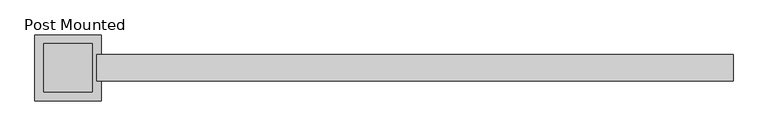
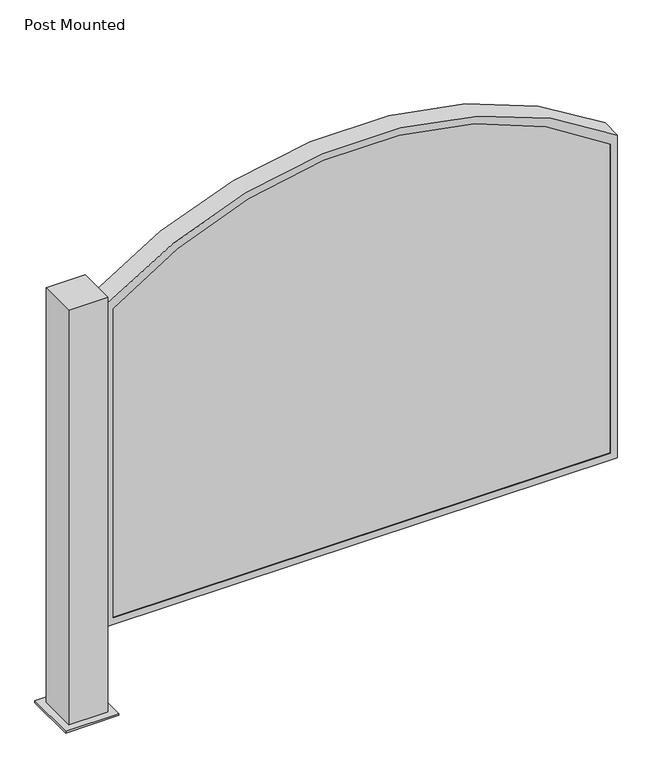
"""IFC4 building model written with IfcOpenShell, lengths in millimetres: proxy geometry."""

from ifc_helpers import new_model, si_unit, point, frame, frame_2d, origin, origin_with_axes, place, context, project, spatial, polyline, circle_curve, trimmed, segment, composite_curve, outline, extrude, source, transform, mapped, element, save


def post_mounted_1185a56c(model_context):
    return source(origin(), model_context, "Body", "SweptSolid", [
        extrude(outline(composite_curve([segment(polyline([(1498.6, -841.557955), (330.2, -841.557955), (330.2, -838.382955), (1498.1842172, -838.382955)]), True, "CONTINUOUS"), segment(trimmed(circle_curve(frame_2d((350.2311334, 47.442045)), 1449.9938666), [point((1498.1842172, -838.382955))], [point((1498.1842172, 933.267045))], True, "CARTESIAN"), True, "CONTINUOUS"), segment(polyline([(1498.1842172, 933.267045), (330.2, 933.267045), (330.2, 936.442045), (1498.6, 936.442045)]), True, "CONTINUOUS"), segment(trimmed(circle_curve(frame_2d((354.5416674, 47.442045)), 1448.8583328), [point((1498.6, 936.442045))], [point((1498.6, -841.557955))], False, "CARTESIAN"), True, "CONTINUOUS")], self_intersect=False)), frame((0.0, -31.75, 0.0), z_axis=(0.0, 1.0, 0.0), x_axis=(0.0, 0.0, 1.0)), (0.0, 0.0, 1.0), 63.5),
        extrude(outline(composite_curve([segment(polyline([(1498.6, -841.557955), (330.2, -841.557955), (330.2, 936.442045), (1498.6, 936.442045)]), True, "CONTINUOUS"), segment(trimmed(circle_curve(frame_2d((355.722222, 47.442045)), 1447.9263157), [point((1498.6, 936.442045))], [point((1498.6, -841.557955))], False, "CARTESIAN"), True, "CONTINUOUS")], self_intersect=False)), frame((0.0, 28.3669303, 0.0), z_axis=(0.0, 1.0, 0.0), x_axis=(0.0, 0.0, 1.0)), (0.0, 0.0, 1.0), 3.3830697),
        extrude(outline(polyline([(-854.257955, 95.25), (-854.257955, -95.25), (-1044.757955, -95.25), (-1044.757955, 95.25), (-854.257955, 95.25)])), origin_with_axes(), (0.0, 0.0, 1.0), 6.35),
        extrude(outline(composite_curve([segment(polyline([(1498.6, -841.557955), (330.2, -841.557955), (330.2, 936.442045), (1498.6, 936.442045)]), True, "CONTINUOUS"), segment(trimmed(circle_curve(frame_2d((354.541666, 47.442045)), 1448.8583339), [point((1498.6, 936.442045))], [point((1498.6, -841.557955))], False, "CARTESIAN"), True, "CONTINUOUS")], self_intersect=False)), frame((0.0, -34.925, 0.0), z_axis=(0.0, 1.0, 0.0), x_axis=(0.0, 0.0, 1.0)), (0.0, 0.0, 1.0), 3.175),
        extrude(outline(composite_curve([segment(polyline([(1498.6, -841.557955), (330.2, -841.557955), (330.2, 936.442045), (1498.6, 936.442045)]), True, "CONTINUOUS"), segment(trimmed(circle_curve(frame_2d((354.541666, 47.442045)), 1448.8583339), [point((1498.6, 936.442045))], [point((1498.6, -841.557955))], False, "CARTESIAN"), True, "CONTINUOUS")], self_intersect=False)), frame((0.0, 31.75, 0.0), z_axis=(0.0, 1.0, 0.0), x_axis=(0.0, 0.0, 1.0)), (0.0, 0.0, 1.0), 3.175),
        extrude(outline(composite_curve([segment(polyline([(1524.0, -866.957955), (304.8, -866.957955), (304.8, 961.842045), (1524.0, 961.842045)]), True, "CONTINUOUS"), segment(trimmed(circle_curve(frame_2d((304.8016277, 47.442045)), 1523.9986978), [point((1524.0, 961.842045))], [point((1524.0, -866.957955))], False, "CARTESIAN"), True, "CONTINUOUS")], self_intersect=False), holes=[composite_curve([segment(trimmed(circle_curve(frame_2d((354.541666, 47.442045)), 1448.8583339), [point((1498.6, -841.557955))], [point((1498.6, 936.442045))], True, "CARTESIAN"), True, "CONTINUOUS"), segment(polyline([(1498.6, 936.442045), (330.2, 936.442045), (330.2, -841.557955), (1498.6, -841.557955)]), True, "CONTINUOUS")], self_intersect=False)]), frame((0.0, -38.1, 0.0), z_axis=(0.0, 1.0, 0.0), x_axis=(0.0, 0.0, 1.0)), (0.0, 0.0, 1.0), 76.2),
        extrude(outline(polyline([(-879.657955, 69.85), (-879.657955, -69.85), (-1019.357955, -69.85), (-1019.357955, 69.85), (-879.657955, 69.85)])), frame((0.0, 0.0, 6.35), z_axis=(0.0, 0.0, 1.0), x_axis=(1.0, 0.0, 0.0)), (0.0, 0.0, 1.0), 1568.45),
    ])


if __name__ == "__main__":
    model = new_model("IFC4")
    model_context = context("Model", 3, world=origin())
    ifc_project = project(units=[si_unit("LENGTHUNIT", "METRE", prefix="MILLI")], contexts=[model_context])
    site = spatial("IfcSite", under=ifc_project)
    building = spatial("IfcBuilding", under=site)
    placement = place(None, origin())
    post_mounted_shape = post_mounted_1185a56c(model_context)
    element("IfcBuildingElementProxy", 1, Name="Post Mounted : Arch Top Double Layer 4x6 w/ LED and Graphic on 6\" Post", ObjectType="Post Mounted : Arch Top Double Layer 4x6 w/ LED and Graphic on 6\" Post", at=placement, inside=building, context=model_context, shape_type="MappedRepresentation", body=[
        mapped(post_mounted_shape, transform((0.0, 0.0, 0.0), x_axis=(1.0, 0.0, 0.0), y_axis=(0.0, 1.0, 0.0), z_axis=(0.0, 0.0, 1.0))),
    ])
    save(model, "model.ifc")
